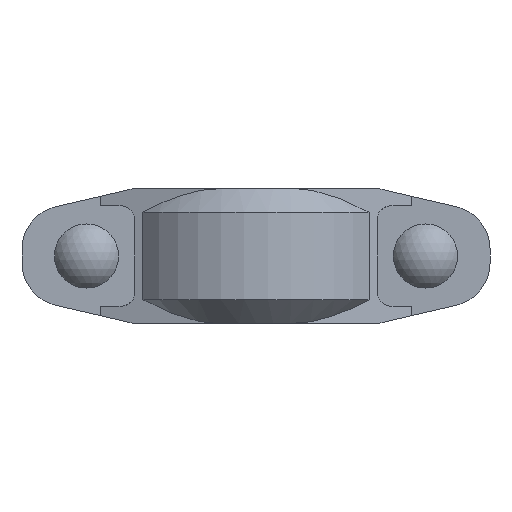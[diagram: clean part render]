
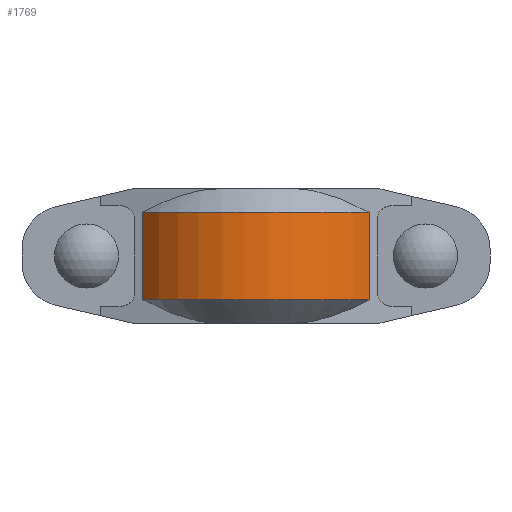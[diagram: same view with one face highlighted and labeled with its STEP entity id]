
A CAD part, front view. The second image highlights one B-rep face of the part: STEP entity #1769.
In plain terms, the highlighted cylindrical face has radius 49.276 mm (diameter 98.552 mm), a partial arc.
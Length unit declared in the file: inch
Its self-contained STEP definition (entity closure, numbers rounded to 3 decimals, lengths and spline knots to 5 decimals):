
#206=FACE_OUTER_BOUND('',#303,.T.);
#303=EDGE_LOOP('',(#1497,#1498,#1499,#1500));
#378=LINE('',#2666,#535);
#434=LINE('',#2829,#591);
#535=VECTOR('',#2139,0.3937);
#591=VECTOR('',#2271,0.3937);
#677=CIRCLE('',#1911,1.94);
#681=CIRCLE('',#1918,1.94);
#764=VERTEX_POINT('',#2661);
#765=VERTEX_POINT('',#2665);
#821=VERTEX_POINT('',#2824);
#822=VERTEX_POINT('',#2828);
#946=EDGE_CURVE('',#765,#764,#378,.T.);
#1021=EDGE_CURVE('',#822,#821,#434,.T.);
#1042=EDGE_CURVE('',#764,#822,#677,.T.);
#1049=EDGE_CURVE('',#765,#821,#681,.T.);
#1497=ORIENTED_EDGE('',*,*,#946,.T.);
#1498=ORIENTED_EDGE('',*,*,#1042,.T.);
#1499=ORIENTED_EDGE('',*,*,#1021,.T.);
#1500=ORIENTED_EDGE('',*,*,#1049,.F.);
#1601=CYLINDRICAL_SURFACE('',#1935,1.94);
#1769=ADVANCED_FACE('',(#206),#1601,.T.);
#1911=AXIS2_PLACEMENT_3D('',#2866,#2310,#2311);
#1918=AXIS2_PLACEMENT_3D('',#2880,#2327,#2328);
#1935=AXIS2_PLACEMENT_3D('',#2919,#2375,#2376);
#2139=DIRECTION('',(0.,0.,1.));
#2271=DIRECTION('',(0.,0.,-1.));
#2310=DIRECTION('center_axis',(0.,0.,-1.));
#2311=DIRECTION('ref_axis',(0.,-1.,0.));
#2327=DIRECTION('center_axis',(0.,0.,-1.));
#2328=DIRECTION('ref_axis',(0.,-1.,0.));
#2375=DIRECTION('center_axis',(0.,0.,-1.));
#2376=DIRECTION('ref_axis',(0.,-1.,0.));
#2661=CARTESIAN_POINT('',(1.54109,-1.1784,0.595));
#2665=CARTESIAN_POINT('',(1.54109,-1.1784,-0.595));
#2666=CARTESIAN_POINT('',(1.54109,-1.1784,0.));
#2824=CARTESIAN_POINT('',(-1.54109,-1.1784,-0.595));
#2828=CARTESIAN_POINT('',(-1.54109,-1.1784,0.595));
#2829=CARTESIAN_POINT('',(-1.54109,-1.1784,0.));
#2866=CARTESIAN_POINT('Origin',(0.,0.,0.595));
#2880=CARTESIAN_POINT('Origin',(0.,0.,-0.595));
#2919=CARTESIAN_POINT('Origin',(0.,0.,0.));
